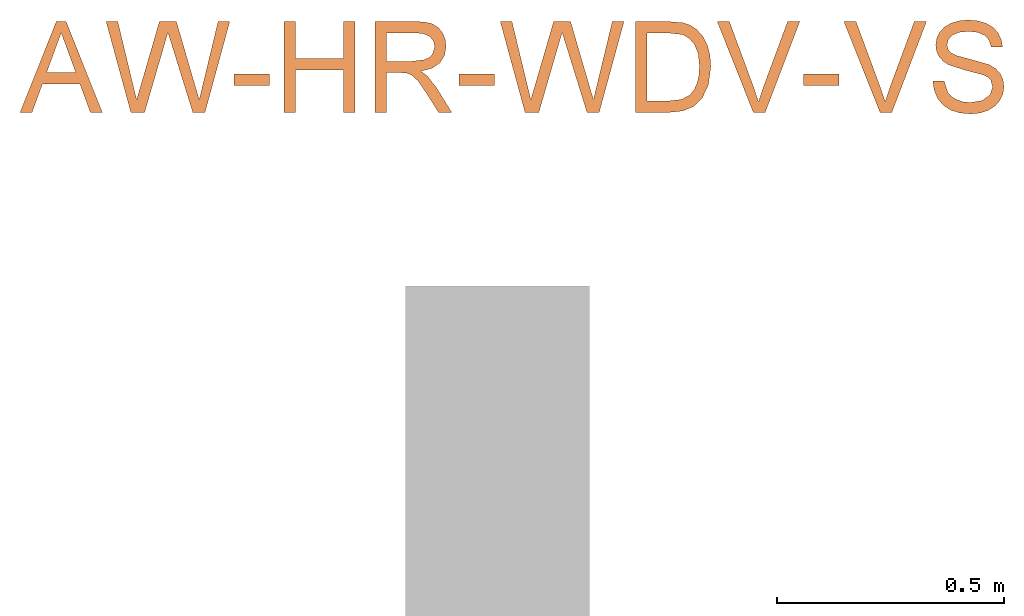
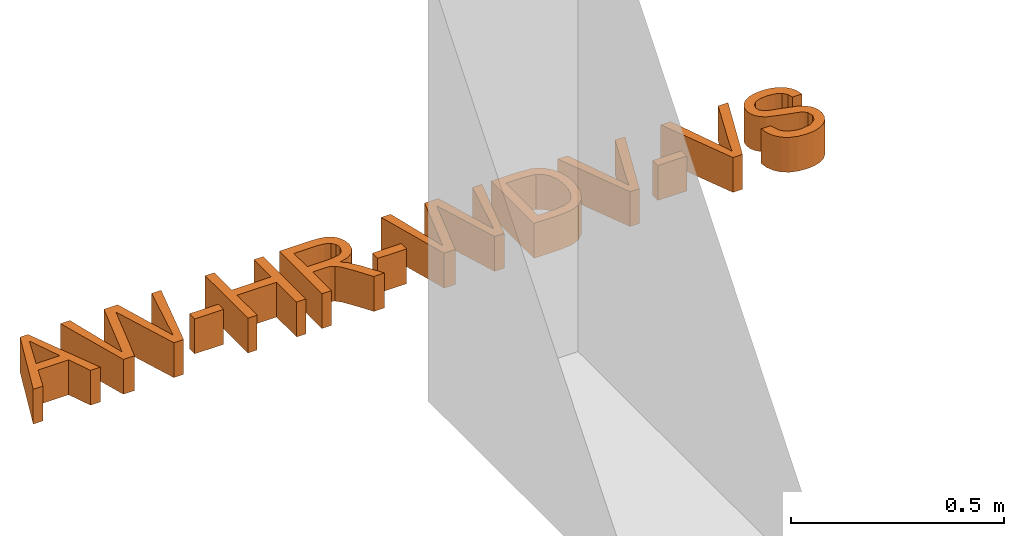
# Not in any storey, part 2 of 2: 1 proxy.
"""IFC2X3 model written with IfcOpenShell, lengths in metres."""

from ifc_helpers import new_model, entity, si_unit, converted_unit, derived_unit, direction, frame, frame_2d, origin, place, context, subcontext, project, spatial, polyline, rectangle, outline, extrude, type_object, element, save


model = new_model("IFC2X3")

# Units and contexts
model_context = context("Model", 3, precision=1e-05, world=origin(), true_north=direction((6.123031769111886e-17, 1.0)))
body_context = subcontext(model_context, "Body", "Model", "MODEL_VIEW")
ifc_project = project(units=[si_unit("LENGTHUNIT", "METRE"), si_unit("AREAUNIT", "SQUARE_METRE"), si_unit("VOLUMEUNIT", "CUBIC_METRE"), converted_unit("PLANEANGLEUNIT", "DEGREE", entity("IfcRatioMeasure", 0.017453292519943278), si_unit("PLANEANGLEUNIT", "RADIAN"), dimensions=[0, 0, 0, 0, 0, 0, 0]), si_unit("MASSUNIT", "GRAM", prefix="KILO"), derived_unit("MASSDENSITYUNIT", [(si_unit("MASSUNIT", "GRAM", prefix="KILO"), 1), (si_unit("LENGTHUNIT", "METRE"), -3)]), derived_unit("MOMENTOFINERTIAUNIT", [(si_unit("LENGTHUNIT", "METRE"), 4)]), si_unit("TIMEUNIT", "SECOND"), si_unit("FREQUENCYUNIT", "HERTZ"), si_unit("THERMODYNAMICTEMPERATUREUNIT", "DEGREE_CELSIUS"), derived_unit("THERMALTRANSMITTANCEUNIT", [(si_unit("MASSUNIT", "GRAM", prefix="KILO"), 1), (si_unit("THERMODYNAMICTEMPERATUREUNIT", "KELVIN"), -1), (si_unit("TIMEUNIT", "SECOND"), -3)]), derived_unit("VOLUMETRICFLOWRATEUNIT", [(si_unit("LENGTHUNIT", "METRE"), 3), (si_unit("TIMEUNIT", "SECOND"), -1)]), derived_unit("MASSFLOWRATEUNIT", [(si_unit("MASSUNIT", "GRAM", prefix="KILO"), 1), (si_unit("TIMEUNIT", "SECOND"), -1)]), derived_unit("ROTATIONALFREQUENCYUNIT", [(si_unit("TIMEUNIT", "SECOND"), -1)]), si_unit("ELECTRICCURRENTUNIT", "AMPERE"), si_unit("ELECTRICVOLTAGEUNIT", "VOLT"), si_unit("POWERUNIT", "WATT"), si_unit("FORCEUNIT", "NEWTON", prefix="KILO"), si_unit("ILLUMINANCEUNIT", "LUX"), si_unit("LUMINOUSFLUXUNIT", "LUMEN"), si_unit("LUMINOUSINTENSITYUNIT", "CANDELA"), derived_unit("USERDEFINED", [(si_unit("MASSUNIT", "GRAM", prefix="KILO"), -1), (si_unit("LENGTHUNIT", "METRE"), -2), (si_unit("TIMEUNIT", "SECOND"), 3), (si_unit("LUMINOUSFLUXUNIT", "LUMEN"), 1)]), derived_unit("SOUNDPOWERUNIT", [(si_unit("MASSUNIT", "GRAM", prefix="KILO"), 1), (si_unit("LENGTHUNIT", "METRE"), 2), (si_unit("TIMEUNIT", "SECOND"), -3)]), derived_unit("SOUNDPRESSUREUNIT", [(si_unit("MASSUNIT", "GRAM", prefix="KILO"), 1), (si_unit("LENGTHUNIT", "METRE"), -1), (si_unit("TIMEUNIT", "SECOND"), -2)]), derived_unit("LINEARVELOCITYUNIT", [(si_unit("LENGTHUNIT", "METRE"), 1), (si_unit("TIMEUNIT", "SECOND"), -1)]), si_unit("PRESSUREUNIT", "PASCAL"), derived_unit("USERDEFINED", [(si_unit("LENGTHUNIT", "METRE"), -2), (si_unit("MASSUNIT", "GRAM", prefix="KILO"), 1), (si_unit("TIMEUNIT", "SECOND"), -2)]), derived_unit("LINEARFORCEUNIT", [(si_unit("MASSUNIT", "GRAM", prefix="KILO"), 1), (si_unit("LENGTHUNIT", "METRE"), 1), (si_unit("TIMEUNIT", "SECOND"), -2), (si_unit("LENGTHUNIT", "METRE"), -1)]), derived_unit("PLANARFORCEUNIT", [(si_unit("MASSUNIT", "GRAM", prefix="KILO"), 1), (si_unit("LENGTHUNIT", "METRE"), 1), (si_unit("TIMEUNIT", "SECOND"), -2), (si_unit("LENGTHUNIT", "METRE"), -2)])], contexts=[model_context])

# Site
site_placement = place(None, origin())
site = spatial("IfcSite", under=ifc_project, at=site_placement, Name="Default", CompositionType="ELEMENT")

# Proxy
building_element_proxy_type = type_object("IfcBuildingElementProxyType", Name="Modelltext:600mm Arial", PredefinedType="NOTDEFINED")
proxy_placement = place(site_placement, origin())
element("IfcBuildingElementProxy", 1, at=proxy_placement, inside=site, type_object=building_element_proxy_type, Name="Modelltext:600mm Arial", ObjectType="Modelltext:600mm Arial", context=body_context, shape_type="SweptSolid", body=[
    extrude(outline(polyline([(-0.09088524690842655, -0.0659244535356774), (-0.06434869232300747, -0.0659244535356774), (-0.04139285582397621, -0.003139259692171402), (0.04135606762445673, -0.003139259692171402), (0.06436095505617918, -0.0659244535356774), (0.09089750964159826, -0.0659244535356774), (0.010699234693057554, 0.1349881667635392), (-0.01068697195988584, 0.1349881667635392), (-0.09088524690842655, -0.0659244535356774)]), holes=[polyline([(-0.03217128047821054, 0.021974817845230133), (-0.012501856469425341, 0.07568558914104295), (6.1313665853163e-06, 0.10987408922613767), (0.01408374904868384, 0.07136910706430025), (0.032183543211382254, 0.021974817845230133), (-0.03217128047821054, 0.021974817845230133)])]), frame((7.084400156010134, 24.273217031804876, 0.0)), (0.0, 0.0, 1.0), 0.1),
    extrude(outline(polyline([(-0.08129804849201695, -0.1077055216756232), (-0.050984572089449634, -0.1077055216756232), (-0.0070839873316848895, 0.042880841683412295), (0.0004698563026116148, 0.06892688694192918), (0.007189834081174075, 0.047295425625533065), (0.05535784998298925, -0.1077055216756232), (0.08218871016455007, -0.1077055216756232), (0.1370276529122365, 0.09320709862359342), (0.11112876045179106, 0.09320709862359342), (0.07904945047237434, -0.040015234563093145), (0.069533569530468, -0.07959933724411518), (0.048000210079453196, -0.00592483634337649), (0.019060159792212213, 0.09320709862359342), (-0.018267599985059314, 0.09320709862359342), (-0.05809695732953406, -0.043546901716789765), (-0.06859385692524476, -0.07959933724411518), (-0.07840404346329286, -0.038838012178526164), (-0.11018904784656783, 0.09320709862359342), (-0.1360879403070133, 0.09320709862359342), (-0.08129804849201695, -0.1077055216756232)])), frame((7.319380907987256, 24.314998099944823, 0.0)), (0.0, 0.0, 1.0), 0.1),
    extrude(rectangle(XDim=0.0784814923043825, YDim=0.02511407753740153, at=frame_2d((0.0, 2.1658022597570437e-15), x_axis=(1.0, 0.0))), frame((7.50506708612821, 24.27949555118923, 0.0)), (0.0, 0.0, 1.0), 0.1),
    extrude(outline(polyline([(-0.07848149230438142, -0.10254914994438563), (-0.0533674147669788, -0.10254914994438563), (-0.0533674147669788, -0.008371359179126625), (0.05336741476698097, -0.008371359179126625), (0.05336741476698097, -0.10254914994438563), (0.0784814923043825, -0.10254914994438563), (0.0784814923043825, 0.09836347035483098), (0.05336741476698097, 0.09836347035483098), (0.05336741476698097, 0.01674271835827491), (-0.0533674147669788, 0.01674271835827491), (-0.0533674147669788, 0.09836347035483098), (-0.07848149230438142, 0.09836347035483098), (-0.07848149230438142, -0.10254914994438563)])), frame((7.654181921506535, 24.309841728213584, 0.0)), (0.0, 0.0, 1.0), 0.1),
    extrude(outline(polyline([(-0.10313418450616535, -0.10350768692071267), (-0.07802010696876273, -0.10350768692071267), (-0.07802010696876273, -0.01560841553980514), (-0.04770663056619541, -0.01560841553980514), (-0.0331385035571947, -0.016491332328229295), (-0.021194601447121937, -0.02127379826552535), (-0.007926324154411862, -0.03429682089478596), (0.010958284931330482, -0.06186344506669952), (0.037102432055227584, -0.10350768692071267), (0.06628773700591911, -0.10350768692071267), (0.032785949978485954, -0.04906115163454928), (0.012429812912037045, -0.023211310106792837), (-0.00184400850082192, -0.012469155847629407), (0.022896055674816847, -0.005810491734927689), (0.040217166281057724, 0.006219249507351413), (0.05042589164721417, 0.022626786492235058), (0.05382880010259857, 0.04241883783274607), (0.051774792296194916, 0.05832973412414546), (0.04561276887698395, 0.07280589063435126), (0.03601104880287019, 0.08448001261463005), (0.023637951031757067, 0.09198480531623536), (0.006709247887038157, 0.09604990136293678), (-0.016559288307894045, 0.09740493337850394), (-0.10313418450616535, 0.09740493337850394), (-0.10313418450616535, -0.10350768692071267)]), holes=[polyline([(-0.07802010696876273, 0.009505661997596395), (-0.07802010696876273, 0.0722908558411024), (-0.015480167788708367, 0.0722908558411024), (0.0043915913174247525, 0.07012035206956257), (0.018095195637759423, 0.0636088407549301), (0.02605984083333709, 0.053737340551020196), (0.028714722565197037, 0.04148687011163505), (0.02314744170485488, 0.024441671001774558), (0.016292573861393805, 0.017684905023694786), (0.006862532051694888, 0.013061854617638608), (-0.02180773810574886, 0.009505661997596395), (-0.07802010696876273, 0.009505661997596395)])]), frame((7.879747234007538, 24.31080026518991, 0.0)), (0.0, 0.0, 1.0), 0.1),
    extrude(rectangle(XDim=0.0784814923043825, YDim=0.02511407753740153, at=frame_2d((0.0, 2.1658022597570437e-15), x_axis=(1.0, 0.0))), frame((8.001070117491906, 24.27949555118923, 0.0)), (0.0, 0.0, 1.0), 0.1),
    extrude(outline(polyline([(-0.08129804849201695, -0.1077055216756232), (-0.050984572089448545, -0.1077055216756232), (-0.0070839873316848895, 0.042880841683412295), (0.0004698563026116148, 0.06892688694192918), (0.007189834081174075, 0.047295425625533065), (0.05535784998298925, -0.1077055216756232), (0.08218871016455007, -0.1077055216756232), (0.1370276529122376, 0.09320709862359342), (0.11112876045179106, 0.09320709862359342), (0.07904945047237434, -0.040015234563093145), (0.069533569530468, -0.07959933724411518), (0.048000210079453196, -0.00592483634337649), (0.019060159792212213, 0.09320709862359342), (-0.018267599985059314, 0.09320709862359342), (-0.058096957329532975, -0.043546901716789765), (-0.06859385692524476, -0.07959933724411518), (-0.07840404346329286, -0.038838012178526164), (-0.11018904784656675, 0.09320709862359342), (-0.1360879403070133, 0.09320709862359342), (-0.08129804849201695, -0.1077055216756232)])), frame((8.188955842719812, 24.314998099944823, 0.0)), (0.0, 0.0, 1.0), 0.1),
    extrude(outline(polyline([(-0.11220564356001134, -0.10878107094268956), (-0.03956121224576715, -0.10878107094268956), (-0.007261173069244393, -0.105347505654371), (0.01674925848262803, -0.09526753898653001), (0.035094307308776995, -0.07704511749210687), (0.04882856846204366, -0.04778623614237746), (0.05417512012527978, -0.007245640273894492), (0.05220082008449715, 0.018138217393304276), (0.04627791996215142, 0.040529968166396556), (0.03638189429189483, 0.0595617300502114), (0.022488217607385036, 0.07486562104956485), (0.008974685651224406, 0.08365800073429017), (-0.007040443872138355, 0.08923754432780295), (-0.04289667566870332, 0.09213154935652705), (-0.11220564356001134, 0.09213154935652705), (-0.11220564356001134, -0.10878107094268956)]), holes=[polyline([(-0.08709156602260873, -0.08366699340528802), (-0.08709156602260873, 0.06701747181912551), (-0.043338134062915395, 0.06701747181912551), (-0.007727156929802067, 0.06299529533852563), (0.006466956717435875, 0.05460758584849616), (0.01834341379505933, 0.040726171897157), (0.026381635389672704, 0.020517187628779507), (0.029061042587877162, -0.006853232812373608), (0.02769374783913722, -0.027509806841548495), (0.02359186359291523, -0.04484318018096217), (0.017037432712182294, -0.05891466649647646), (0.00831249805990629, -0.06978557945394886), (-0.01032685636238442, -0.08003722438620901), (-0.04265142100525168, -0.08366699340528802), (-0.08709156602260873, -0.08366699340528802)])]), frame((8.463303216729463, 24.316073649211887, 0.0)), (0.0, 0.0, 1.0), 0.1),
    extrude(outline(polyline([(-0.011641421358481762, -0.10439128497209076), (0.014306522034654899, -0.10439128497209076), (0.09087502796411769, 0.09652133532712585), (0.06399511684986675, 0.09652133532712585), (0.010333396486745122, -0.04822796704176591), (-0.00035970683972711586, -0.08084683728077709), (-0.011199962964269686, -0.04822796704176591), (-0.0647145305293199, 0.09652133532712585), (-0.09159444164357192, 0.09652133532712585), (-0.011641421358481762, -0.10439128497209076)])), frame((8.62300324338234, 24.31168386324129, 0.0)), (0.0, 0.0, 1.0), 0.1),
    extrude(rectangle(XDim=0.0784814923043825, YDim=0.02511407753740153, at=frame_2d((-1.0824674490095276e-15, 2.1658022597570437e-15), x_axis=(1.0, 0.0))), frame((8.760770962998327, 24.27949555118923, 0.0)), (0.0, 0.0, 1.0), 0.1),
    extrude(outline(polyline([(-0.011641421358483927, -0.10439128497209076), (0.014306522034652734, -0.10439128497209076), (0.0908750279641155, 0.09652133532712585), (0.06399511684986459, 0.09652133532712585), (0.010333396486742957, -0.04822796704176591), (-0.0003597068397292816, -0.08084683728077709), (-0.01119996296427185, -0.04822796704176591), (-0.06471453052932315, 0.09652133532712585), (-0.09159444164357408, 0.09652133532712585), (-0.011641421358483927, -0.10439128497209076)])), frame((8.902397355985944, 24.31168386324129, 0.0)), (0.0, 0.0, 1.0), 0.1),
    extrude(outline(polyline([(0.02184305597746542, -0.08305115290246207), (0.042343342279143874, -0.08305115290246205), (0.061369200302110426, -0.07790157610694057), (0.07782931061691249, -0.06794406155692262), (0.09063235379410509, -0.05352024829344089), (0.09983646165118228, -0.03440318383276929), (0.10549976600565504, -0.010365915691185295), (0.10647807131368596, 0.009748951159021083), (0.10328130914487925, 0.02835776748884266), (0.0961570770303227, 0.04448838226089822), (0.08535297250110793, 0.05716864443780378), (0.07192688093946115, 0.06596425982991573), (0.056936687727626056, 0.0704409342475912), (0.041668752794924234, 0.07070714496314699), (0.027700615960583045, 0.06682859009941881), (0.015123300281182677, 0.058581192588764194), (0.004027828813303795, 0.04574087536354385), (-0.014904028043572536, 0.0036050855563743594), (-0.025816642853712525, -0.021910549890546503), (-0.034744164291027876, -0.03492683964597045), (-0.04329565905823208, -0.039731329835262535), (-0.053134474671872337, -0.040306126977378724), (-0.06392280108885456, -0.03587043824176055), (-0.07211984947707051, -0.026114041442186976), (-0.07639932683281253, -0.010698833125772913), (-0.07543494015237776, 0.010713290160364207), (-0.07024694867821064, 0.031009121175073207), (-0.0615846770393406, 0.04491959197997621), (-0.04948636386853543, 0.05285933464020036), (-0.033990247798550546, 0.05524298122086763), (-0.030339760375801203, 0.08009033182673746), (-0.04721530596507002, 0.0797065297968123), (-0.06289483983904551, 0.07480898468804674), (-0.07660297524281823, 0.06544490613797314), (-0.08756432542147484, 0.05166150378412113), (-0.09557344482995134, 0.03409789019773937), (-0.10042488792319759, 0.013393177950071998), (-0.10157543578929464, -0.0062068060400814), (-0.09906651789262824, -0.024435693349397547), (-0.09285920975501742, -0.04022708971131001), (-0.08291458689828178, -0.05251460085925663), (-0.07029355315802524, -0.06096884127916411), (-0.05605701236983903, -0.0652604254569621), (-0.04278306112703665, -0.06543199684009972), (-0.030332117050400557, -0.06192547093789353), (-0.018913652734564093, -0.054648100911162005), (-0.008737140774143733, -0.04350713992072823), (0.0092383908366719, -0.00636211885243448), (0.02404131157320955, 0.028423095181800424), (0.030749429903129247, 0.03827023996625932), (0.03780572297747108, 0.04365383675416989), (0.053917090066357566, 0.04550089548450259), (0.06977789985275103, 0.037543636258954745), (0.07978673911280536, 0.018944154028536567), (0.08050981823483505, -0.0076860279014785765), (0.0767013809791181, -0.023189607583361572), (0.07013863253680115, -0.03660289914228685), (0.06151941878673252, -0.047098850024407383), (0.051541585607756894, -0.0538504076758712), (0.02549354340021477, -0.05820380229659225), (0.02184305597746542, -0.08305115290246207)])), frame((9.086196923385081, 24.31003936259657, 0.0), z_axis=(0.0, 0.0, 1.0), x_axis=(0.14535622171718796, -0.9893793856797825, 0.0)), (0.0, 0.0, 1.0), 0.1),
])

save(model, "model.ifc")
